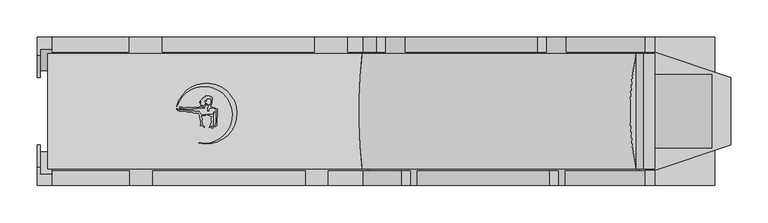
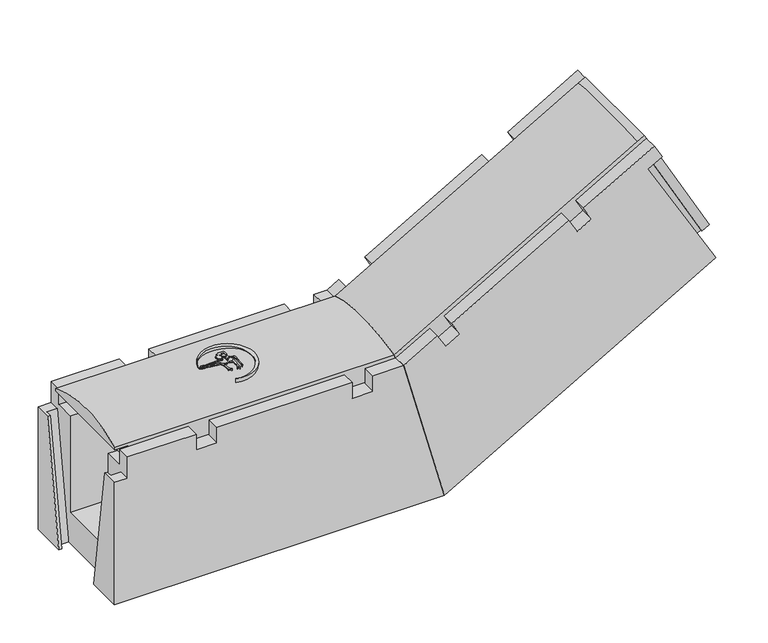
"""IFC4 building model written with IfcOpenShell, lengths in millimetres: cable carrier fitting geometry, Evotray type 1 vertical bend up : Evotray type 1 vertical bend up."""

from ifc_helpers import new_model, si_unit, point, frame, frame_2d, origin, place, context, project, spatial, polyline, circle_curve, ellipse_curve, trimmed, segment, composite_curve, outline, extrude, faceted_brep, source, transform, mapped, element, save
from ifc_brep_helpers import plane_surface, cylinder_surface, advanced_brep


def cable_carrier_fitting_c3dc4104(model_context):
    return source(origin(), model_context, "Body", "SolidModel", [
        extrude(outline(composite_curve([segment(polyline([(-150.1987673, 5.907559), (-148.7730763, 5.0844359), (-149.4820077, 4.6751342), (-152.0469375, 4.6751342), (-154.5064308, 2.2156409), (-154.5064308, 0.6319729), (-155.5639447, 0.3486129), (-155.8953119, 1.5852919), (-155.5730905, 2.7878385), (-155.5730905, 5.0146536), (-154.1065498, 6.4811943), (-154.5064308, 7.1738084), (-155.5730905, 7.7896447), (-156.4313624, 8.2851682), (-157.4244859, 9.2782918), (-157.4244859, 10.5283487), (-156.6366917, 10.0735155), (-155.5730905, 9.0099142), (-154.5064308, 8.394078), (-152.1936661, 8.394078), (-151.5617675, 9.0259766), (-151.5617675, 10.6343813), (-151.1559104, 11.3373462), (-150.9163405, 12.2314336), (-150.9163405, 16.3268685), (-151.5617675, 16.9722955), (-155.5730905, 17.3232408), (-156.3212546, 16.8912881), (-156.7531031, 16.1433045), (-156.9754965, 15.313321), (-157.2482129, 13.7666695), (-157.8042347, 14.3226912), (-158.3698905, 14.8883471), (-159.3304254, 14.8883471), (-159.8048648, 14.0665939), (-159.8048648, 13.2416885), (-159.4028177, 12.5453225), (-158.675123, 11.8176278), (-159.0717623, 10.3373496), (-159.4092623, 9.0777826), (-159.1064549, 7.3604762), (-159.907248, 7.2192748), (-161.6376932, 7.6829462), (-162.8844025, 8.2642963), (-163.6376597, 8.6155459), (-165.2371082, 8.33352), (-164.7695498, 9.1433549), (-163.1127288, 9.7463885)]), True, "CONTINUOUS"), segment(trimmed(circle_curve(frame_2d((-163.6788564, 9.4744491)), 0.6280537), [point((-163.1127288, 9.7463885))], [point((-163.8344386, 10.0829273))], True, "CARTESIAN"), True, "CONTINUOUS"), segment(polyline([(-163.8344386, 10.0829273), (-165.7814537, 10.0829273), (-165.2232755, 10.6411054), (-164.3724958, 10.9507639), (-163.5540563, 11.2486515)]), True, "CONTINUOUS"), segment(trimmed(circle_curve(frame_2d((-164.2923812, 11.2486515)), 0.7383249), [point((-163.5540563, 11.2486515))], [point((-164.2923812, 11.9869764))], True, "CARTESIAN"), True, "CONTINUOUS"), segment(polyline([(-164.2923812, 11.9869764), (-166.0001288, 11.9869764), (-166.3916504, 12.6651117), (-164.5730583, 12.9857785), (-163.2767203, 13.457607), (-163.897473, 14.0783597), (-165.8606925, 14.0783597), (-165.30811, 14.6309421), (-164.2782773, 15.2255163), (-163.603553, 15.9002407), (-162.8807357, 16.3175594), (-161.9057237, 16.8804829)]), True, "CONTINUOUS"), segment(trimmed(circle_curve(frame_2d((-162.1167091, 17.2459203)), 0.4219708), [point((-161.9057237, 16.8804829))], [point((-162.3276945, 17.6113577))], True, "CARTESIAN"), True, "CONTINUOUS"), segment(polyline([(-162.3276945, 17.6113577), (-161.7102978, 18.2287544), (-160.4076278, 18.7028875), (-159.4125713, 19.2773836), (-158.2810347, 19.4769041), (-158.6348604, 20.4490324), (-153.6348604, 20.4490324), (-152.6206866, 19.9761154), (-151.4988316, 19.6755153), (-150.4843855, 19.0898245), (-149.3757091, 17.9811481), (-149.3757091, 15.4151328), (-149.8646262, 14.5683035), (-149.8646262, 11.8362675), (-150.3536612, 10.7875287), (-150.760463, 10.0829273), (-150.760463, 8.2341629), (-151.5617675, 7.7715296), (-152.3950459, 7.6246001)]), True, "CONTINUOUS"), segment(trimmed(circle_curve(frame_2d((-151.3420944, 7.3424626)), 1.0900956), [point((-152.3950459, 7.6246001))], [point((-151.6242319, 6.2895111))], True, "CARTESIAN"), True, "CONTINUOUS"), segment(polyline([(-151.6242319, 6.2895111), (-150.1987673, 5.907559)]), True, "CONTINUOUS")], self_intersect=False)), frame((0.0, 0.0, 229.0645802), z_axis=(0.0, 0.0, 1.0), x_axis=(1.0, 0.0, 0.0)), (0.0, 0.0, 1.0), 22.5),
        extrude(outline(polyline([(-145.6420581, 3.0525563), (-147.5647021, 4.1625953), (-146.375462, 4.4812513), (-145.0006066, 3.9808448), (-142.8744575, 2.753312), (-142.462808, 1.2170154), (-142.462808, -1.5561738), (-142.8811889, -3.9289297), (-143.2073261, -13.2682758), (-143.2073261, -16.1231727), (-143.766974, -19.297094), (-144.9259981, -20.4561181), (-145.8234867, -20.4561181), (-145.1486125, -18.6019165), (-144.8396569, -16.8497423), (-144.3251997, -13.9321102), (-144.3251997, -2.6926455), (-143.883565, -0.1880111), (-144.4260419, 1.8365401), (-145.6420581, 3.0525563)])), frame((0.0, 0.0, 229.0645802), z_axis=(0.0, 0.0, 1.0), x_axis=(1.0, 0.0, 0.0)), (0.0, 0.0, 1.0), 22.5),
        extrude(outline(composite_curve([segment(polyline([(-153.070307, -4.5554644), (-151.0881056, -4.5554644), (-149.6198413, -4.2965698), (-148.3145593, -2.9912878), (-147.1344504, -0.4605362), (-146.6534984, -1.7819409), (-147.2762062, -3.117342), (-147.9468137, -4.5554644), (-147.9468137, -10.5136603), (-148.3751928, -12.943119), (-148.3751928, -21.4242609), (-149.8238515, -22.8729196), (-150.3965887, -22.3001824), (-149.7178687, -20.5578122), (-149.4597233, -19.0937972)]), True, "CONTINUOUS"), segment(trimmed(circle_curve(frame_2d((-149.8743713, -19.0937972)), 0.414648), [point((-149.4597233, -19.0937972))], [point((-150.2890194, -19.0937972))], True, "CARTESIAN"), True, "CONTINUOUS"), segment(polyline([(-150.2890194, -19.0937972), (-151.0547081, -19.8594859), (-152.3215546, -21.3692548), (-152.9770637, -22.0247639), (-153.7693849, -21.6552984), (-151.605165, -18.4467105), (-151.2992553, -16.7118106), (-150.4571975, -14.9060116), (-150.19999, -13.4473154), (-150.9884987, -12.0815782), (-150.9884987, -9.315031), (-149.6653502, -7.4454743)]), True, "CONTINUOUS"), segment(trimmed(circle_curve(frame_2d((-150.0024552, -7.2068937)), 0.4129897), [point((-149.6653502, -7.4454743))], [point((-150.2410358, -6.8697887))], True, "CARTESIAN"), True, "CONTINUOUS"), segment(polyline([(-150.2410358, -6.8697887), (-152.2448508, -6.516462), (-153.6887473, -5.843162), (-155.508748, -4.9944818), (-155.508748, -4.1255015), (-153.070307, -4.5554644)]), True, "CONTINUOUS")], self_intersect=False)), frame((0.0, 0.0, 229.0645802), z_axis=(0.0, 0.0, 1.0), x_axis=(1.0, 0.0, 0.0)), (0.0, 0.0, 1.0), 22.5),
        extrude(outline(composite_curve([segment(polyline([(-195.4819029, 2.2537302), (-193.7462291, 1.4443722), (-189.5597552, 1.4443722), (-188.4890341, 1.731271), (-187.1624965, 1.731271), (-185.4413877, 1.4443722), (-183.4350656, 0.9067798), (-182.2818775, 0.597784), (-176.5899708, 0.597784), (-173.9734749, 0.1616293), (-172.6459123, -0.19409), (-167.03167, -0.19409)]), True, "CONTINUOUS"), segment(trimmed(circle_curve(frame_2d((-158.1781038, 2.7115165)), 9.3181642), [point((-167.03167, -0.19409))], [point((-163.6774022, -4.8108435))], True, "CARTESIAN"), True, "CONTINUOUS"), segment(polyline([(-163.6774022, -4.8108435), (-160.6256174, -4.8108435), (-158.5910388, -4.632841), (-157.4520349, -4.1017147), (-157.7095548, -5.0627921), (-158.6536491, -5.6078652), (-159.612336, -5.9567987), (-162.847041, -5.8438403), (-164.0357356, -6.2764898), (-164.44473, -7.153581), (-164.3696494, -8.0117562), (-163.8907652, -8.8412079), (-163.1701597, -9.5618134), (-163.1701597, -11.3180259), (-163.53546, -12.3216801), (-163.3911934, -13.970655), (-162.8861011, -15.8556852), (-162.737982, -17.5486944), (-160.3666469, -20.2766033), (-160.5753239, -21.4600691), (-163.1701597, -18.8652332), (-164.1329913, -19.1232231), (-165.5361675, -18.8758053), (-165.2606072, -18.1187094), (-165.2606072, -15.8446539), (-165.0850033, -14.8487551), (-165.2606072, -12.8415943), (-165.6362696, -11.8094702), (-165.6362696, -9.9842873), (-166.0826053, -9.0271173), (-166.0826053, -6.6493678), (-166.3310455, -5.7221762), (-166.7830159, -4.9393406), (-167.2317276, -4.1621491), (-167.84617, -3.5477067), (-168.2800213, -2.6173096), (-171.8809595, -2.4915621), (-174.2251115, -2.1008055), (-176.2577048, -1.5561738), (-179.5993244, -1.2049554), (-181.6789374, -1.2049554), (-183.021172, -0.8453047), (-184.5447671, -0.4370587), (-185.8880204, 0.1893106), (-186.8824091, 0.1893106), (-189.5338495, 0.1893106), (-190.6460936, -0.1087143), (-192.5093755, 0.0871245), (-193.9984504, 0.3353447), (-195.6717579, 1.1156208), (-196.6476843, 2.0915471), (-197.2867674, 2.7306302), (-197.2867674, 3.5175099), (-195.4819029, 2.2537302)]), True, "CONTINUOUS")], self_intersect=False)), frame((0.0, 0.0, 229.0645802), z_axis=(0.0, 0.0, 1.0), x_axis=(1.0, 0.0, 0.0)), (0.0, 0.0, 1.0), 22.5),
        extrude(outline(composite_curve([segment(polyline([(-192.9796703, 3.7977023), (-191.956356, 3.2068915), (-193.6840165, 3.7265624), (-194.014163, 4.6441261), (-193.1758386, 5.4824506), (-190.30302, 5.4824506), (-189.318583, 5.0847122), (-188.2280942, 4.6441261), (-187.4299007, 4.1832889), (-186.1696706, 4.1832889), (-185.3486455, 4.4787), (-184.4633932, 4.9898007), (-178.0496883, 4.9898007), (-177.1941137, 4.6441261), (-176.1237116, 4.6441261), (-175.1629915, 4.9898007), (-173.9838348, 4.9898007), (-173.2654957, 5.4045339), (-167.8528405, 5.4045339), (-167.0925598, 5.6780888), (-165.8504018, 5.6780888), (-165.2746333, 6.2538574), (-163.3170698, 6.2538574), (-162.0290688, 5.7334711), (-161.0171524, 5.1492409), (-160.2127113, 4.8242256)]), True, "CONTINUOUS"), segment(trimmed(circle_curve(frame_2d((-160.6200436, 4.6596527)), 0.4393221), [point((-160.2127113, 4.8242256))], [point((-160.7846166, 4.2523203))], False, "CARTESIAN"), True, "CONTINUOUS"), segment(polyline([(-160.7846166, 4.2523203), (-161.8003453, 4.6627013), (-163.112003, 4.6627013), (-164.382433, 4.8867124), (-165.1944574, 4.5945398), (-166.3374314, 4.1832889), (-169.6816293, 4.1832889), (-170.4727027, 3.7265624), (-174.0400229, 3.7265624), (-174.9228853, 3.2168416), (-184.9228853, 3.2168416), (-187.5335493, 2.9884381), (-191.222077, 4.4787), (-193.3728446, 4.4787), (-192.9796703, 3.7977023)]), True, "CONTINUOUS")], self_intersect=False)), frame((0.0, 0.0, 229.0645802), z_axis=(0.0, 0.0, 1.0), x_axis=(1.0, 0.0, 0.0)), (0.0, 0.0, 1.0), 22.5),
        extrude(outline(composite_curve([segment(trimmed(circle_curve(frame_2d((-160.3994103, -4.8721323)), 38.3616107), [point((-167.8072471, -42.511701))], [point((-197.1109456, 6.2578432))], True, "CARTESIAN"), True, "CONTINUOUS"), segment(trimmed(circle_curve(frame_2d((-157.2700096, -2.9917986)), 40.900563), [point((-197.1109456, 6.2578432))], [point((-167.8072471, -42.511701))], False, "CARTESIAN"), True, "CONTINUOUS")], self_intersect=False)), frame((0.0, 0.0, 229.0645802), z_axis=(0.0, 0.0, 1.0), x_axis=(1.0, 0.0, 0.0)), (0.0, 0.0, 1.0), 22.5),
        advanced_brep(
        [(60.0704156, -77.5, 205.0), (445.5127019, -77.5, 427.5352078), (431.0247302, -77.5, 452.6291108), (420.6324254, -77.5, 446.6291108), (52.299889, -77.5, 234.0), (445.5127019, 77.5, 427.5352078), (60.0704156, 77.5, 205.0), (52.299889, 77.5, 234.0), (420.620397, 77.5, 446.6499445), (431.0247302, 77.5, 452.6291108)],
        [
            (0, 1),
            (1, 2),
            (2, 3),
            (3, 4),
            (4, 0),
            (5, 6),
            (6, 7),
            (7, 8),
            (8, 9),
            (9, 5),
            (1, 5),
            (9, 2),
            (6, 0),
            (4, 7, ellipse_curve(frame((97.4710992, 0.0, 65.4187483), z_axis=(-0.9659258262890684, 0.0, -0.25881904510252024), x_axis=(-0.25881904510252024, 0.0, 0.9659258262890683)), 192.0873655, 185.5421473)),
            (8, 3),
            (8, 3, circle_curve(frame((504.9110229, 0.0, 300.6542979), z_axis=(0.8660254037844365, 0.0, 0.500000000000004), x_axis=(0.0, -1.0, 0.0)), 185.5421473)),
        ],
        [
            plane_surface(frame((445.5127019, -77.5, 427.5352078), z_axis=(0.0, -1.0, 0.0), x_axis=(-0.4999999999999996, 0.0, 0.8660254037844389))),
            plane_surface(frame((445.5127019, 77.5, 427.5352078), z_axis=(0.0, 1.0, 0.0), x_axis=(0.4999999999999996, 0.0, -0.8660254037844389))),
            plane_surface(frame((445.5127019, -77.5, 427.5352078), z_axis=(0.8660254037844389, 0.0, 0.4999999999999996), x_axis=(0.0, 1.0, 0.0))),
            plane_surface(frame((47.7447527, -77.5, 251.0), z_axis=(-0.9659258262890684, 0.0, -0.25881904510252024), x_axis=(0.0, 1.0, 0.0))),
            plane_surface(frame((60.0704156, -77.5, 205.0), z_axis=(0.4999999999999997, 0.0, -0.8660254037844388), x_axis=(0.0, 1.0, 0.0))),
            plane_surface(frame((431.0247302, -77.5, 452.6291108), z_axis=(-0.5000000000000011, 0.0, 0.866025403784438), x_axis=(-0.866025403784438, 0.0, -0.5000000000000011))),
            plane_surface(frame((420.6324254, -77.5, 446.6291108), z_axis=(0.8660254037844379, 0.0, 0.5000000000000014), x_axis=(-0.5000000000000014, 0.0, 0.8660254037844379))),
            cylinder_surface(frame((135.19821, 0.0, 87.2005059), z_axis=(0.8660254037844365, 0.0, 0.500000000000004), x_axis=(0.0, -1.0, 0.0)), 185.5421473),
        ],
        [
            (0, [[1, 2, 3, 4, 5]]),
            (1, [[6, 7, 8, 9, 10]]),
            (2, [[11, -10, 12, -2]]),
            (3, [[13, -5, 14, -7]]),
            (4, [[-1, -13, -6, -11]]),
            (5, [[15, -3, -12, -9]]),
            (6, [[-15, 16]]),
            (7, [[-4, -16, -8, -14]]),
        ],
    ),
        advanced_brep(
        [(-351.0, -77.5, 205.0), (60.0704156, -77.5, 205.0), (52.299889, -77.5, 234.0), (-371.0, -77.5, 234.0), (-371.0, -77.5, 230.0), (-351.0, -77.5, 230.0), (60.0704156, 77.5, 205.0), (-351.0, 77.5, 205.0), (-351.0, 77.5, 230.0), (-371.0, 77.5, 230.0), (-371.0, 77.5, 234.0), (52.299889, 77.5, 234.0)],
        [
            (0, 1),
            (1, 2),
            (2, 3),
            (3, 4),
            (4, 5),
            (5, 0),
            (6, 7),
            (7, 8),
            (8, 9),
            (9, 10),
            (10, 11),
            (11, 6),
            (9, 4),
            (3, 10, circle_curve(frame((-371.0, 0.0, 65.4187483), z_axis=(-1.0, 0.0, 0.0), x_axis=(0.0, -1.0, 0.0)), 185.5421473)),
            (6, 1),
            (0, 7),
            (11, 2, ellipse_curve(frame((97.4710992, 0.0, 65.4187483), z_axis=(0.9659258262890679, 0.0, 0.2588190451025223), x_axis=(0.2588190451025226, 0.0, -0.965925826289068)), 192.0873655, 185.5421473)),
            (8, 5),
        ],
        [
            plane_surface(frame((-371.0, -77.5, 205.0), z_axis=(0.0, -1.0, 0.0), x_axis=(0.0, 0.0, -1.0))),
            plane_surface(frame((-371.0, 77.5, 205.0), z_axis=(0.0, 1.0, 0.0), x_axis=(0.0, 0.0, 1.0))),
            plane_surface(frame((-371.0, -77.5, 251.0), z_axis=(-1.0, 0.0, 0.0), x_axis=(0.0, 1.0, 0.0))),
            plane_surface(frame((-371.0, -77.5, 205.0), z_axis=(0.0, 0.0, -1.0), x_axis=(0.0, 1.0, 0.0))),
            plane_surface(frame((60.0704156, -77.5, 205.0), z_axis=(0.9659258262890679, 0.0, 0.2588190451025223), x_axis=(0.0, 1.0, 0.0))),
            plane_surface(frame((-371.0, 77.5, 230.0), z_axis=(0.0, 0.0, -1.0), x_axis=(-1.0, 0.0, 0.0))),
            plane_surface(frame((-351.0, -77.5, 230.0), z_axis=(-1.0, 0.0, 0.0), x_axis=(0.0, 0.0, -1.0))),
            cylinder_surface(frame((-371.0, 0.0, 65.4187483), z_axis=(1.0, 0.0, 0.0), x_axis=(0.0, -1.0, 0.0)), 185.5421473),
        ],
        [
            (0, [[1, 2, 3, 4, 5, 6]]),
            (1, [[7, 8, 9, 10, 11, 12]]),
            (2, [[13, -4, 14, -10]]),
            (3, [[15, -1, 16, -7]]),
            (4, [[-15, -12, 17, -2]]),
            (5, [[18, -5, -13, -9]]),
            (6, [[-18, -8, -16, -6]]),
            (7, [[-3, -17, -11, -14]]),
        ],
    ),
        faceted_brep([(53.3716857, -100.0, 230.0), (115.0, -100.0, 0.0), (526.3620668, -100.0, 237.5), (423.8620668, -100.0, 415.0352078), (445.5127019, -100.0, 427.5352078), (433.0127019, -100.0, 449.1858429), (325.6255518, -100.0, 387.1858429), (338.1255518, -100.0, 365.5352078), (316.4749167, -100.0, 353.0352078), (303.9749167, -100.0, 374.6858429), (126.439709, -100.0, 272.1858429), (138.939709, -100.0, 250.5352078), (117.2890739, -100.0, 238.0352078), (104.7890739, -100.0, 259.6858429), (115.0, 100.0, 0.0), (53.3716857, 100.0, 230.0), (71.0140831, 100.0, 240.1858429), (83.5140831, 100.0, 218.5352078), (122.4852263, 100.0, 241.0352078), (109.9852263, 100.0, 262.6858429), (287.5204341, 100.0, 365.1858429), (300.0204341, 100.0, 343.5352078), (338.9915772, 100.0, 366.0352078), (326.4915772, 100.0, 387.6858429), (433.0127019, 100.0, 449.1858429), (445.5127019, 100.0, 427.5352078), (423.8620668, 100.0, 415.0352078), (526.3620668, 100.0, 237.5), (445.5127019, -50.0, 427.5352078), (445.5127019, -80.0, 427.5352078), (548.0127019, -45.4, 250.0), (548.0127019, 45.4, 250.0), (445.5127019, 80.0, 427.5352078), (445.5127019, 50.0, 427.5352078), (523.0127019, 50.0, 293.3012702), (523.0127019, -50.0, 293.3012702), (433.0127019, -80.0, 449.1858429), (433.0127019, 80.0, 449.1858429), (303.9749167, -80.0, 374.6858429), (126.439709, -80.0, 272.1858429), (109.9852263, 80.0, 262.6858429), (287.5204341, 80.0, 365.1858429), (325.6255518, -80.0, 387.1858429), (326.4915772, 80.0, 387.6858429), (53.3716857, -80.0, 230.0), (104.7890739, -80.0, 259.6858429), (53.3716857, 80.0, 230.0), (71.0140831, 80.0, 240.1858429), (60.0704156, -80.0, 205.0), (60.0704156, -50.0, 205.0), (101.6025404, -50.0, 50.0), (101.6025404, 50.0, 50.0), (60.0704156, 50.0, 205.0), (60.0704156, 80.0, 205.0), (526.3620668, 43.0, 237.5), (536.7543716, 43.0, 243.5), (536.7543716, 45.4, 243.5), (536.7543716, -45.4, 243.5), (536.7543716, -43.0, 243.5), (526.3620668, -43.0, 237.5), (434.2543716, -80.0, 421.0352078), (423.8620668, -80.0, 415.0352078), (338.1255518, -80.0, 365.5352078), (316.4749167, -80.0, 353.0352078), (138.939709, -80.0, 250.5352078), (117.2890739, -80.0, 238.0352078), (338.9915772, 80.0, 366.0352078), (423.8620668, 80.0, 415.0352078), (434.2543716, 80.0, 421.0352078), (122.4852263, 80.0, 241.0352078), (300.0204341, 80.0, 343.5352078), (83.5140831, 80.0, 218.5352078), (423.8620668, -77.6, 415.0352078), (434.2543716, -77.6, 421.0352078), (434.2543716, 77.6, 421.0352078), (423.8620668, 77.6, 415.0352078)], [[[0, 1, 2, 3, 4, 5, 6, 7, 8, 9, 10, 11, 12, 13]], [[14, 15, 16, 17, 18, 19, 20, 21, 22, 23, 24, 25, 26, 27]], [[28, 29, 30, 31, 32, 33, 34, 35]], [[36, 5, 4, 29]], [[24, 37, 32, 25]], [[10, 9, 38, 39]], [[20, 19, 40, 41]], [[5, 36, 42, 6]], [[37, 24, 23, 43]], [[44, 0, 13, 45]], [[15, 46, 47, 16]], [[1, 0, 44, 48, 49, 50, 51, 52, 53, 46, 15, 14]], [[1, 14, 27, 54, 55, 56, 31, 30, 57, 58, 59, 2]], [[36, 29, 60, 61, 62, 42]], [[39, 38, 63, 64]], [[48, 44, 45, 65]], [[32, 37, 43, 66, 67, 68]], [[41, 40, 69, 70]], [[46, 53, 71, 47]], [[49, 48, 65, 12, 11, 64, 63, 8, 7, 62, 61, 72, 73, 60, 29, 28]], [[53, 52, 33, 32, 68, 74, 75, 67, 66, 22, 21, 70, 69, 18, 17, 71]], [[35, 50, 49, 28]], [[51, 34, 33, 52]], [[50, 35, 34, 51]], [[60, 29, 4, 3, 61]], [[29, 60, 57, 30]], [[32, 68, 67, 26, 25]], [[68, 32, 31, 56]], [[58, 73, 72, 59]], [[59, 72, 61, 3, 2]], [[73, 58, 57, 60]], [[54, 75, 74, 55]], [[75, 54, 27, 26, 67]], [[55, 74, 68, 56]], [[70, 21, 20, 41]], [[22, 66, 43, 23]], [[62, 7, 6, 42]], [[8, 63, 38, 9]], [[64, 11, 10, 39]], [[12, 65, 45, 13]], [[71, 17, 16, 47]], [[18, 69, 40, 19]]]),
        faceted_brep([(-385.0, -100.0, 0.0), (115.0, -100.0, 0.0), (53.3716857, -100.0, 230.0), (6.6963481, -100.0, 230.0), (6.6963481, -100.0, 205.0), (-24.6518259, -100.0, 205.0), (-24.6518259, -100.0, 230.0), (-229.6518259, -100.0, 230.0), (-229.6518259, -100.0, 205.0), (-261.0, -100.0, 205.0), (-261.0, -100.0, 230.0), (-365.0130369, -100.0, 230.0), (-365.0130369, -100.0, 196.0), (-385.0, -100.0, 196.0), (53.3716857, 100.0, 230.0), (115.0, 100.0, 0.0), (-385.0, 100.0, 0.0), (-385.0, 100.0, 196.0), (-365.0130369, 100.0, 196.0), (-365.0130369, 100.0, 230.0), (-262.0, 100.0, 230.0), (-262.0, 100.0, 205.0), (-217.0, 100.0, 205.0), (-217.0, 100.0, 230.0), (-12.0, 100.0, 230.0), (-12.0, 100.0, 205.0), (33.0, 100.0, 205.0), (33.0, 100.0, 230.0), (-24.6518259, -80.0, 230.0), (-229.6518259, -80.0, 230.0), (-217.0, 80.0, 230.0), (-12.0, 80.0, 230.0), (53.3716857, -80.0, 230.0), (6.6963481, -80.0, 230.0), (53.3716857, 80.0, 230.0), (33.0, 80.0, 230.0), (-365.0130369, -80.0, 230.0), (-261.0, -80.0, 230.0), (-365.0130369, 80.0, 230.0), (-262.0, 80.0, 230.0), (-385.0, -45.45, 0.0), (-385.0, -74.8926087, 196.0), (-385.0, 45.45, 0.0), (-385.0, 74.8926087, 196.0), (-381.0, -45.45, 0.0), (-381.0, -54.6, 0.0), (-365.0, -54.6, 0.0), (-365.0, 54.6, 0.0), (-381.0, 54.6, 0.0), (-381.0, 45.45, 0.0), (60.0704156, 80.0, 205.0), (60.0704156, 50.0, 205.0), (101.6025404, 50.0, 50.0), (101.6025404, -50.0, 50.0), (60.0704156, -50.0, 205.0), (60.0704156, -80.0, 205.0), (-381.0, 74.8926087, 196.0), (-381.0, -74.8926087, 196.0), (-365.0, 84.0426087, 196.0), (-381.0, 84.0426087, 196.0), (-381.0, -84.0426087, 196.0), (-365.0, -84.0426087, 196.0), (-365.0, -80.0, 205.0), (-365.0, -77.5, 205.0), (-365.0, -50.0, 205.0), (-365.0, -50.0, 50.0), (-365.0, 50.0, 50.0), (-365.0, 50.0, 205.0), (-365.0, 77.5, 205.0), (-365.0, 80.0, 205.0), (-24.6518259, -80.0, 205.0), (-229.6518259, -80.0, 205.0), (6.6963481, -80.0, 205.0), (-261.0, -80.0, 205.0), (-217.0, 80.0, 205.0), (-12.0, 80.0, 205.0), (33.0, 80.0, 205.0), (-262.0, 80.0, 205.0), (-351.0, 50.0, 205.0), (-351.0, -50.0, 205.0)], [[[0, 1, 2, 3, 4, 5, 6, 7, 8, 9, 10, 11, 12, 13]], [[14, 15, 16, 17, 18, 19, 20, 21, 22, 23, 24, 25, 26, 27]], [[7, 6, 28, 29]], [[24, 23, 30, 31]], [[2, 32, 33, 3]], [[34, 14, 27, 35]], [[36, 11, 10, 37]], [[19, 38, 39, 20]], [[40, 0, 13, 41]], [[16, 42, 43, 17]], [[1, 0, 40, 44, 45, 46, 47, 48, 49, 42, 16, 15]], [[2, 1, 15, 14, 34, 50, 51, 52, 53, 54, 55, 32]], [[42, 49, 56, 43]], [[44, 40, 41, 57]], [[48, 47, 58, 59]], [[45, 44, 57, 60]], [[49, 48, 59, 56]], [[46, 45, 60, 61]], [[47, 46, 61, 12, 11, 36, 62, 63, 64, 65, 66, 67, 68, 69, 38, 19, 18, 58]], [[12, 61, 60, 57, 41, 13]], [[58, 18, 17, 43, 56, 59]], [[29, 28, 70, 71]], [[32, 55, 72, 33]], [[62, 36, 37, 73]], [[31, 30, 74, 75]], [[50, 34, 35, 76]], [[38, 69, 77, 39]], [[51, 50, 76, 26, 25, 75, 74, 22, 21, 77, 69, 68, 67, 78]], [[55, 54, 79, 64, 63, 62, 73, 9, 8, 71, 70, 5, 4, 72]], [[53, 65, 64, 79, 54]], [[66, 52, 51, 78, 67]], [[65, 53, 52, 66]], [[77, 21, 20, 39]], [[22, 74, 30, 23]], [[9, 73, 37, 10]], [[71, 8, 7, 29]], [[75, 25, 24, 31]], [[26, 76, 35, 27]], [[5, 70, 28, 6]], [[72, 4, 3, 33]]]),
    ])


if __name__ == "__main__":
    model = new_model("IFC4")
    model_context = context("Model", 3, world=origin())
    ifc_project = project(units=[si_unit("LENGTHUNIT", "METRE", prefix="MILLI")], contexts=[model_context])
    site = spatial("IfcSite", under=ifc_project)
    building = spatial("IfcBuilding", under=site)
    placement = place(None, origin())
    cable_carrier_fitting_shape = cable_carrier_fitting_c3dc4104(model_context)
    element("IfcCableCarrierFitting", 1, ObjectType="Evotray type 1 vertical bend up : Evotray type 1 vertical bend up", at=placement, inside=building, context=model_context, shape_type="MappedRepresentation", body=[
        mapped(cable_carrier_fitting_shape, transform((0.0, 0.0, 0.0), x_axis=(1.0, 0.0, 0.0), y_axis=(0.0, 1.0, 0.0), z_axis=(0.0, 0.0, 1.0))),
    ])
    save(model, "model.ifc")
